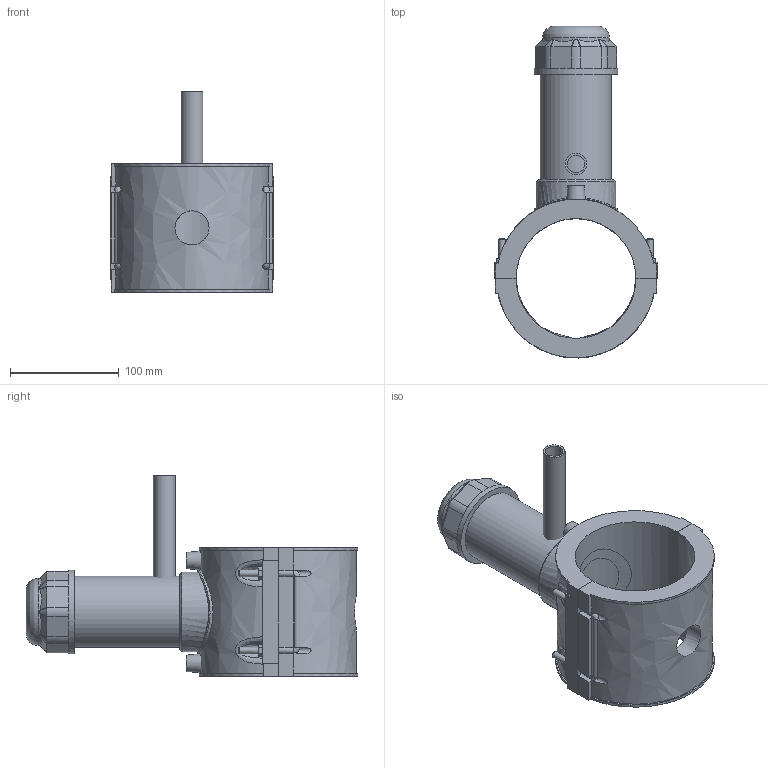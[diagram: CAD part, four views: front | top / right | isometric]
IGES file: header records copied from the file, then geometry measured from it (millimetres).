
Global section: file name: 4963P4110020; native system: Autodesk Inventor 2019; preprocessor: unknown; author: KIM; date: 20220317.112733; units: millimetre
Bounding box: 150 x 304.88 x 184 mm (x, y, z)
Volume: 1160232.9 mm3; surface area: 213746.8 mm2
Topology: 3 solids, 3 shells, 218 faces, 559 edges, 364 vertices
Faces by surface type: bspline 218
